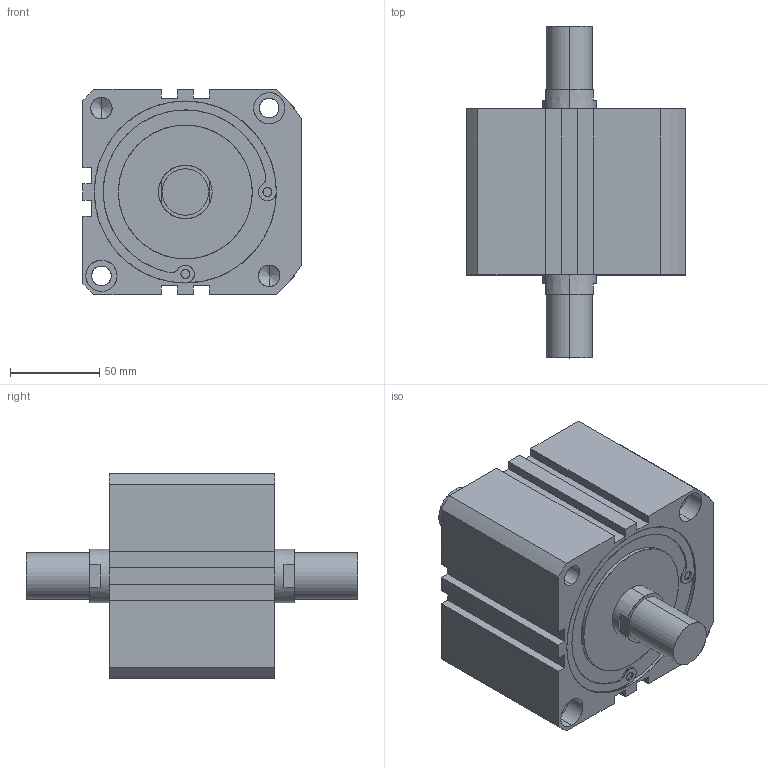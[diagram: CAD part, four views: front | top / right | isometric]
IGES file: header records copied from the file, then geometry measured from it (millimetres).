
Start section: SolidWorks IGES file using analytic representation for surfaces
Global section: file name: C:\Users\Toshiba\Desktop\XG#M7-100D-10.IGS; native system: SolidWorks 2014; preprocessor: SolidWorks 2014; author: Toshiba; date: 160524.102613; units: millimetre
Bounding box: 122.5 x 186 x 115 mm (x, y, z)
Surface area: 98117.5 mm2 (no closed solid volume)
Topology: 0 solids, 0 shells, 140 faces, 2684 edges, 2672 vertices
Faces by surface type: revolution 82, bspline 58
